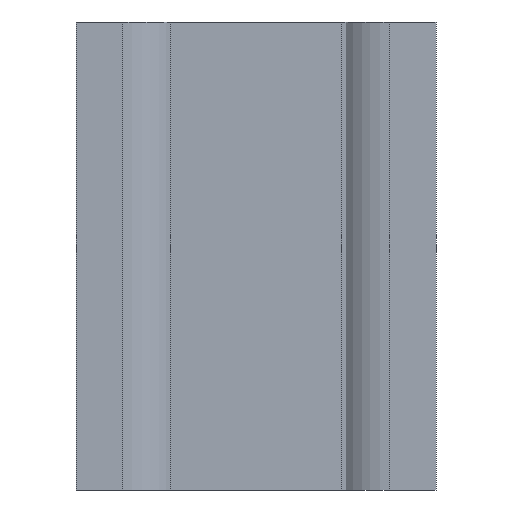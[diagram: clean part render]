
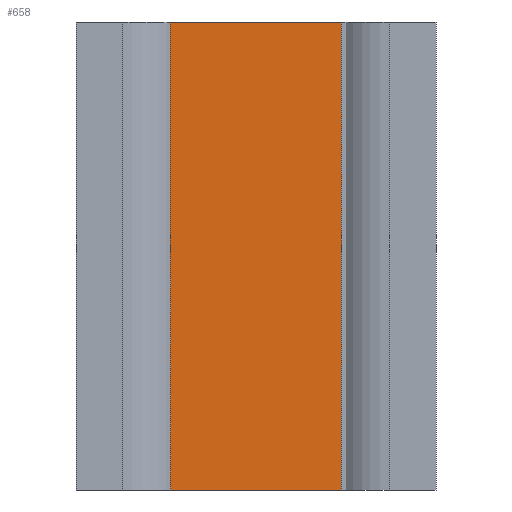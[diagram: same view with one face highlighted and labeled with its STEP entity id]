
A CAD part, front view. The second image highlights one B-rep face of the part: STEP entity #658.
In plain terms, the highlighted planar face has unit normal (0, -1, 0).
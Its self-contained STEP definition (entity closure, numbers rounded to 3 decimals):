
#12 = DIRECTION ( 'NONE',  ( 1., 0., 0. ) ) ;
#17 = ORIENTED_EDGE ( 'NONE', *, *, #273, .F. ) ;
#30 = DIRECTION ( 'NONE',  ( 0., 0., 1. ) ) ;
#71 = EDGE_CURVE ( 'NONE', #488, #549, #313, .T. ) ;
#97 = CARTESIAN_POINT ( 'NONE',  ( -2.375, 0.5, -6.5 ) ) ;
#114 = LINE ( 'NONE', #365, #253 ) ;
#148 = CARTESIAN_POINT ( 'NONE',  ( 2.375, 0.5, -6.5 ) ) ;
#151 = ORIENTED_EDGE ( 'NONE', *, *, #757, .T. ) ;
#152 = ORIENTED_EDGE ( 'NONE', *, *, #244, .F. ) ;
#188 = CARTESIAN_POINT ( 'NONE',  ( -2.375, 0.5, 6.5 ) ) ;
#203 = CARTESIAN_POINT ( 'NONE',  ( -2.375, 0.5, -11.545 ) ) ;
#204 = VECTOR ( 'NONE', #665, 1000. ) ;
#213 = FACE_OUTER_BOUND ( 'NONE', #755, .T. ) ;
#244 = EDGE_CURVE ( 'NONE', #549, #343, #745, .T. ) ;
#253 = VECTOR ( 'NONE', #30, 1000. ) ;
#268 = PLANE ( 'NONE',  #328 ) ;
#273 = EDGE_CURVE ( 'NONE', #343, #686, #533, .T. ) ;
#313 = LINE ( 'NONE', #847, #317 ) ;
#317 = VECTOR ( 'NONE', #509, 1000. ) ;
#328 = AXIS2_PLACEMENT_3D ( 'NONE', #334, #346, #727 ) ;
#334 = CARTESIAN_POINT ( 'NONE',  ( -2.375, 0.5, -11.545 ) ) ;
#343 = VERTEX_POINT ( 'NONE', #188 ) ;
#346 = DIRECTION ( 'NONE',  ( 0., -1., 0. ) ) ;
#365 = CARTESIAN_POINT ( 'NONE',  ( 2.375, 0.5, -11.545 ) ) ;
#399 = CARTESIAN_POINT ( 'NONE',  ( -2.375, 0.5, 6.5 ) ) ;
#454 = VECTOR ( 'NONE', #12, 1000. ) ;
#488 = VERTEX_POINT ( 'NONE', #148 ) ;
#509 = DIRECTION ( 'NONE',  ( -1., 0., 0. ) ) ;
#533 = LINE ( 'NONE', #399, #454 ) ;
#549 = VERTEX_POINT ( 'NONE', #97 ) ;
#658 = ADVANCED_FACE ( 'NONE', ( #213 ), #268, .T. ) ;
#665 = DIRECTION ( 'NONE',  ( 0., 0., 1. ) ) ;
#686 = VERTEX_POINT ( 'NONE', #731 ) ;
#727 = DIRECTION ( 'NONE',  ( 0., 0., -1. ) ) ;
#731 = CARTESIAN_POINT ( 'NONE',  ( 2.375, 0.5, 6.5 ) ) ;
#742 = ORIENTED_EDGE ( 'NONE', *, *, #71, .F. ) ;
#745 = LINE ( 'NONE', #203, #204 ) ;
#755 = EDGE_LOOP ( 'NONE', ( #742, #151, #17, #152 ) ) ;
#757 = EDGE_CURVE ( 'NONE', #488, #686, #114, .T. ) ;
#847 = CARTESIAN_POINT ( 'NONE',  ( -2.375, 0.5, -6.5 ) ) ;
